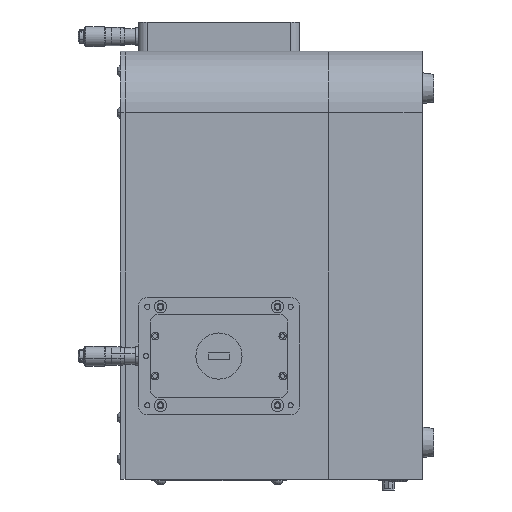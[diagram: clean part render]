
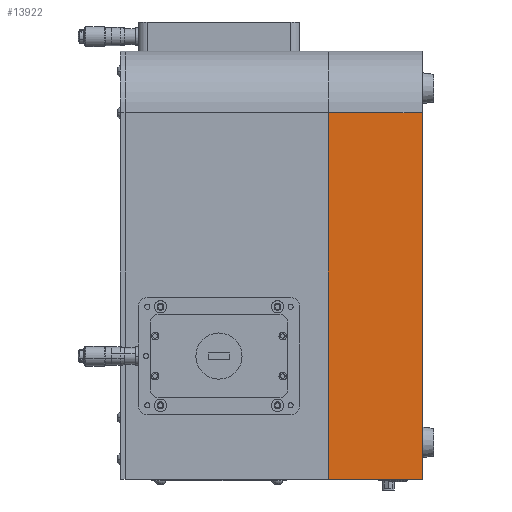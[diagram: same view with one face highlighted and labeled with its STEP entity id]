
A CAD part, left-side view. The second image highlights one B-rep face of the part: STEP entity #13922.
In plain terms, the highlighted planar face has unit normal (-1, 0, 0).
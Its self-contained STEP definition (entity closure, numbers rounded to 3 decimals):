
#321 = DIRECTION ( 'NONE',  ( 0., 0., 1. ) ) ;
#411 = ORIENTED_EDGE ( 'NONE', *, *, #17760, .F. ) ;
#661 = CARTESIAN_POINT ( 'NONE',  ( 0., -69., -278. ) ) ;
#850 = VECTOR ( 'NONE', #5024, 1000. ) ;
#1476 = CARTESIAN_POINT ( 'NONE',  ( 0., -69., 0. ) ) ;
#1580 = AXIS2_PLACEMENT_3D ( 'NONE', #16281, #11955, #321 ) ;
#2410 = FACE_OUTER_BOUND ( 'NONE', #3987, .T. ) ;
#2648 = LINE ( 'NONE', #661, #850 ) ;
#3590 = VECTOR ( 'NONE', #17488, 1000. ) ;
#3987 = EDGE_LOOP ( 'NONE', ( #5449, #8424, #411, #11166 ) ) ;
#4041 = LINE ( 'NONE', #1476, #3590 ) ;
#4174 = CARTESIAN_POINT ( 'NONE',  ( 0., -8., -40. ) ) ;
#5024 = DIRECTION ( 'NONE',  ( 0., 1., 0. ) ) ;
#5449 = ORIENTED_EDGE ( 'NONE', *, *, #13214, .T. ) ;
#6545 = VERTEX_POINT ( 'NONE', #13438 ) ;
#7481 = CARTESIAN_POINT ( 'NONE',  ( 0., -8., -278. ) ) ;
#7550 = VECTOR ( 'NONE', #8068, 1000. ) ;
#7953 = VERTEX_POINT ( 'NONE', #14195 ) ;
#8068 = DIRECTION ( 'NONE',  ( 0., 0., 1. ) ) ;
#8424 = ORIENTED_EDGE ( 'NONE', *, *, #12051, .F. ) ;
#8869 = PLANE ( 'NONE',  #1580 ) ;
#9754 = CARTESIAN_POINT ( 'NONE',  ( 0., -8., -40. ) ) ;
#9823 = VECTOR ( 'NONE', #16366, 1000. ) ;
#10466 = VERTEX_POINT ( 'NONE', #4174 ) ;
#11166 = ORIENTED_EDGE ( 'NONE', *, *, #18675, .F. ) ;
#11955 = DIRECTION ( 'NONE',  ( 1., 0., 0. ) ) ;
#12051 = EDGE_CURVE ( 'NONE', #13140, #10466, #15777, .T. ) ;
#13140 = VERTEX_POINT ( 'NONE', #7481 ) ;
#13214 = EDGE_CURVE ( 'NONE', #7953, #10466, #18004, .T. ) ;
#13438 = CARTESIAN_POINT ( 'NONE',  ( 0., -69., -278. ) ) ;
#13922 = ADVANCED_FACE ( 'NONE', ( #2410 ), #8869, .F. ) ;
#14195 = CARTESIAN_POINT ( 'NONE',  ( 0., -69., -40. ) ) ;
#15777 = LINE ( 'NONE', #9754, #7550 ) ;
#16281 = CARTESIAN_POINT ( 'NONE',  ( 0., -69., 0. ) ) ;
#16366 = DIRECTION ( 'NONE',  ( 0., 1., 0. ) ) ;
#16569 = CARTESIAN_POINT ( 'NONE',  ( 0., -69., -40. ) ) ;
#17488 = DIRECTION ( 'NONE',  ( 0., 0., -1. ) ) ;
#17760 = EDGE_CURVE ( 'NONE', #6545, #13140, #2648, .T. ) ;
#18004 = LINE ( 'NONE', #16569, #9823 ) ;
#18675 = EDGE_CURVE ( 'NONE', #7953, #6545, #4041, .T. ) ;
